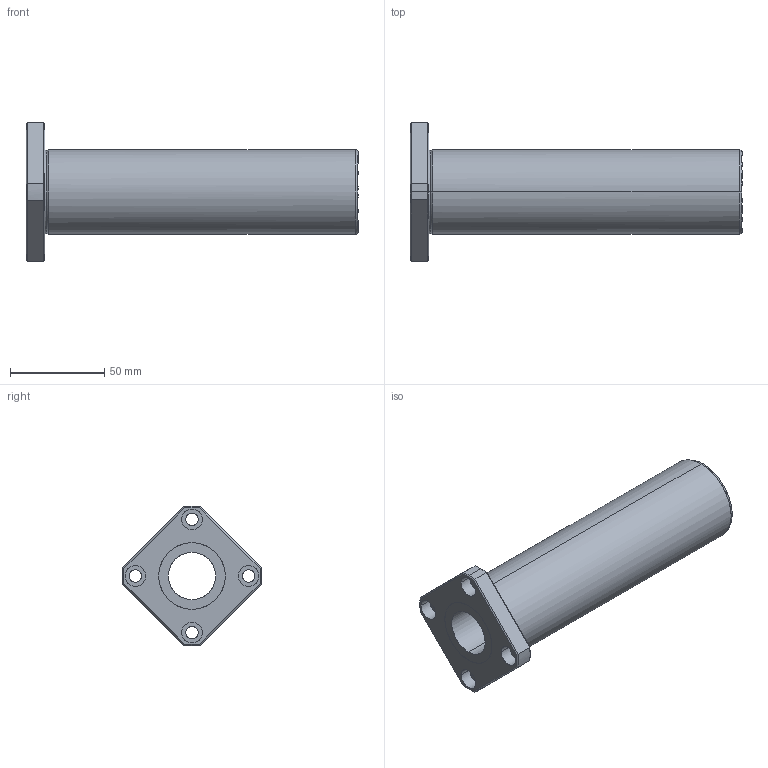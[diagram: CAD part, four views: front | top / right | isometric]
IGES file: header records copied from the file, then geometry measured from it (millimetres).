
Global section: file name: No Iges File Name specified; native system: AutoDesk Inventor R10; preprocessor: AutoDesk Inventor Iges Exporter R10; author: No Author specified; organization: No Organization specified; date: 20101216.172728; units: millimetre
Bounding box: 176 x 73.99 x 74 mm (x, y, z)
Surface area: 45810 mm2 (no closed solid volume)
Topology: 0 solids, 0 shells, 69 faces, 416 edges, 416 vertices
Faces by surface type: bspline 69
